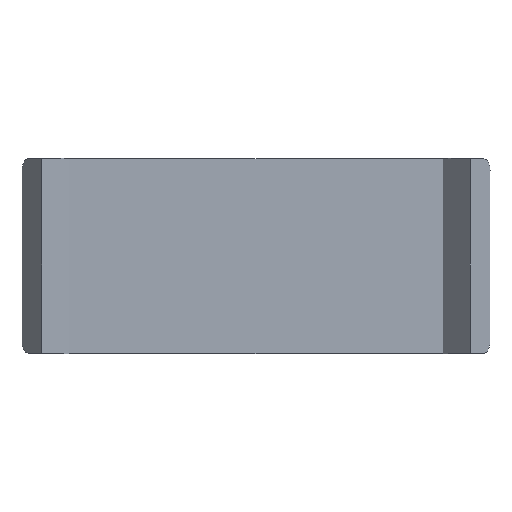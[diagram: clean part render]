
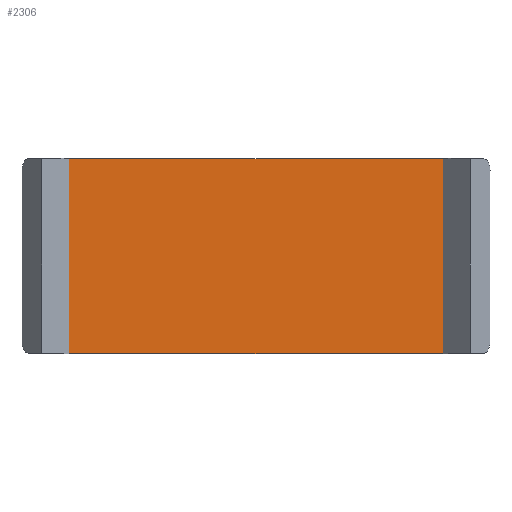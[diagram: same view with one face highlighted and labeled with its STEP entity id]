
A CAD part, top view. The second image highlights one B-rep face of the part: STEP entity #2306.
In plain terms, the highlighted planar face has unit normal (0, 0, 1).
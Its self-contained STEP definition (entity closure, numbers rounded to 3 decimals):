
#18 = EDGE_CURVE ( 'NONE', #6035, #1510, #672, .T. ) ;
#407 = CARTESIAN_POINT ( 'NONE',  ( 24., -12.5, 0. ) ) ;
#672 = LINE ( 'NONE', #2364, #4008 ) ;
#1073 = ORIENTED_EDGE ( 'NONE', *, *, #2761, .F. ) ;
#1461 = LINE ( 'NONE', #4670, #5009 ) ;
#1510 = VERTEX_POINT ( 'NONE', #2823 ) ;
#1685 = FACE_OUTER_BOUND ( 'NONE', #3264, .T. ) ;
#1804 = VECTOR ( 'NONE', #1973, 1000. ) ;
#1973 = DIRECTION ( 'NONE',  ( 0., 1., 0. ) ) ;
#2306 = ADVANCED_FACE ( 'NONE', ( #1685 ), #7965, .F. ) ;
#2364 = CARTESIAN_POINT ( 'NONE',  ( 0., -12.5, 0. ) ) ;
#2538 = LINE ( 'NONE', #5860, #5245 ) ;
#2760 = CARTESIAN_POINT ( 'NONE',  ( -24., -13., 0. ) ) ;
#2761 = EDGE_CURVE ( 'NONE', #1510, #5549, #9988, .T. ) ;
#2823 = CARTESIAN_POINT ( 'NONE',  ( -24., -12.5, 0. ) ) ;
#3264 = EDGE_LOOP ( 'NONE', ( #7218, #3572, #1073, #9558 ) ) ;
#3568 = VERTEX_POINT ( 'NONE', #7692 ) ;
#3572 = ORIENTED_EDGE ( 'NONE', *, *, #8428, .F. ) ;
#3776 = DIRECTION ( 'NONE',  ( -1., 0., 0. ) ) ;
#4008 = VECTOR ( 'NONE', #3776, 1000. ) ;
#4670 = CARTESIAN_POINT ( 'NONE',  ( 24., -13., 0. ) ) ;
#5009 = VECTOR ( 'NONE', #7900, 1000. ) ;
#5245 = VECTOR ( 'NONE', #7392, 1000. ) ;
#5541 = CARTESIAN_POINT ( 'NONE',  ( 0., -13., 0. ) ) ;
#5549 = VERTEX_POINT ( 'NONE', #7974 ) ;
#5860 = CARTESIAN_POINT ( 'NONE',  ( 0., 12.5, 0. ) ) ;
#6035 = VERTEX_POINT ( 'NONE', #407 ) ;
#6429 = DIRECTION ( 'NONE',  ( 0., 0., -1. ) ) ;
#7218 = ORIENTED_EDGE ( 'NONE', *, *, #10352, .F. ) ;
#7392 = DIRECTION ( 'NONE',  ( 1., 0., 0. ) ) ;
#7692 = CARTESIAN_POINT ( 'NONE',  ( 24., 12.5, 0. ) ) ;
#7900 = DIRECTION ( 'NONE',  ( 0., -1., 0. ) ) ;
#7965 = PLANE ( 'NONE',  #9517 ) ;
#7974 = CARTESIAN_POINT ( 'NONE',  ( -24., 12.5, 0. ) ) ;
#8428 = EDGE_CURVE ( 'NONE', #5549, #3568, #2538, .T. ) ;
#8969 = DIRECTION ( 'NONE',  ( -1., 0., 0. ) ) ;
#9517 = AXIS2_PLACEMENT_3D ( 'NONE', #5541, #6429, #8969 ) ;
#9558 = ORIENTED_EDGE ( 'NONE', *, *, #18, .F. ) ;
#9988 = LINE ( 'NONE', #2760, #1804 ) ;
#10352 = EDGE_CURVE ( 'NONE', #3568, #6035, #1461, .T. ) ;
